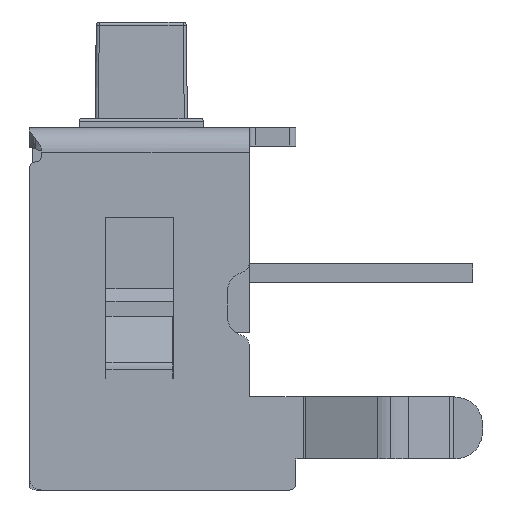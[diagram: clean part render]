
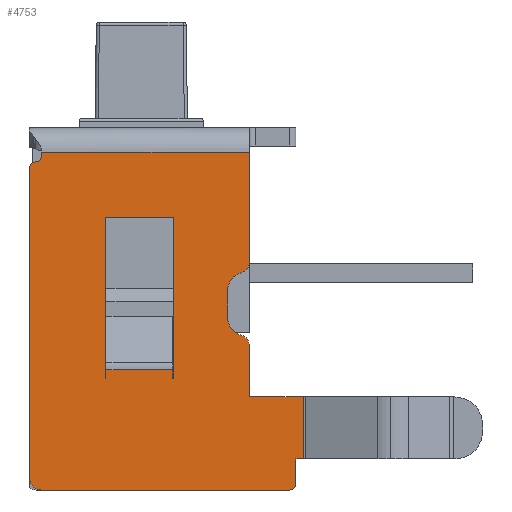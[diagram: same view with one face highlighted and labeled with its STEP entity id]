
A CAD part, left-side view. The second image highlights one B-rep face of the part: STEP entity #4753.
In plain terms, the highlighted planar face has unit normal (-1, 0, 0).
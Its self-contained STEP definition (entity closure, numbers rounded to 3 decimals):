
#252=DIRECTION('',(0.,1.,0.));
#253=VECTOR('',#252,1.08);
#254=CARTESIAN_POINT('',(-3.79,-0.324,
4.266));
#255=LINE('',#254,#253);
#286=DIRECTION('',(0.,0.,1.));
#287=VECTOR('',#286,0.138);
#288=CARTESIAN_POINT('',(-3.79,-0.324,
4.128));
#289=LINE('',#288,#287);
#346=DIRECTION('',(0.,1.,0.));
#347=VECTOR('',#346,0.868);
#348=CARTESIAN_POINT('',(-3.79,-2.427,3.828));
#349=LINE('',#348,#347);
#358=CARTESIAN_POINT('',(-3.79,-2.209,2.428));
#359=DIRECTION('',(1.,0.,0.));
#360=DIRECTION('',(0.,-1.,0.));
#361=AXIS2_PLACEMENT_3D('',#358,#359,#360);
#363=CARTESIAN_POINT('',(-3.79,1.791,2.528));
#364=DIRECTION('',(1.,0.,0.));
#365=DIRECTION('',(0.,0.,-1.));
#366=AXIS2_PLACEMENT_3D('',#363,#364,#365);
#368=CARTESIAN_POINT('',(-3.79,1.891,7.518));
#369=DIRECTION('',(1.,0.,0.));
#370=DIRECTION('',(0.,1.,0.));
#371=AXIS2_PLACEMENT_3D('',#368,#369,#370);
#373=CARTESIAN_POINT('',(-3.79,1.894,7.718));
#374=DIRECTION('',(-1.,0.,0.));
#375=DIRECTION('',(0.,-0.018,-1.));
#376=AXIS2_PLACEMENT_3D('',#373,#374,#375);
#378=DIRECTION('',(0.,0.,1.));
#379=VECTOR('',#378,0.057);
#380=CARTESIAN_POINT('',(-3.79,1.794,7.718));
#381=LINE('',#380,#379);
#382=DIRECTION('',(0.,-1.,0.));
#383=VECTOR('',#382,3.354);
#384=CARTESIAN_POINT('',(-3.79,1.794,7.775));
#385=LINE('',#384,#383);
#386=CARTESIAN_POINT('',(-3.79,-1.383,6.004));
#387=DIRECTION('',(1.,0.,0.));
#388=DIRECTION('',(0.,-1.,0.));
#389=AXIS2_PLACEMENT_3D('',#386,#387,#388);
#391=CARTESIAN_POINT('',(-3.79,-1.509,5.545));
#392=DIRECTION('',(-1.,0.,0.));
#393=DIRECTION('',(0.,0.265,0.964));
#394=AXIS2_PLACEMENT_3D('',#391,#392,#393);
#396=CARTESIAN_POINT('',(-3.79,-1.509,5.111));
#397=DIRECTION('',(-1.,0.,0.));
#398=DIRECTION('',(0.,1.,0.));
#399=AXIS2_PLACEMENT_3D('',#396,#397,#398);
#401=CARTESIAN_POINT('',(-3.79,-1.383,4.652));
#402=DIRECTION('',(1.,0.,0.));
#403=DIRECTION('',(0.,-0.265,0.964));
#404=AXIS2_PLACEMENT_3D('',#401,#402,#403);
#406=DIRECTION('',(0.,0.,1.));
#407=VECTOR('',#406,1.);
#408=CARTESIAN_POINT('',(-3.79,-2.427,2.828));
#409=LINE('',#408,#407);
#674=DIRECTION('',(0.,-1.,0.));
#675=VECTOR('',#674,0.118);
#676=CARTESIAN_POINT('',(-3.79,-2.309,2.828));
#677=LINE('',#676,#675);
#686=DIRECTION('',(0.,0.,1.));
#687=VECTOR('',#686,0.4);
#688=CARTESIAN_POINT('',(-3.79,-2.309,2.428));
#689=LINE('',#688,#687);
#702=DIRECTION('',(0.,-1.,0.));
#703=VECTOR('',#702,4.);
#704=CARTESIAN_POINT('',(-3.79,1.791,2.328));
#705=LINE('',#704,#703);
#718=DIRECTION('',(0.,0.,-1.));
#719=VECTOR('',#718,4.99);
#720=CARTESIAN_POINT('',(-3.79,1.991,7.518));
#721=LINE('',#720,#719);
#2533=DIRECTION('',(0.,0.,1.));
#2534=VECTOR('',#2533,1.771);
#2535=CARTESIAN_POINT('',(-3.79,-1.559,
6.004));
#2536=LINE('',#2535,#2534);
#2553=DIRECTION('',(0.,0.,1.));
#2554=VECTOR('',#2553,0.434);
#2555=CARTESIAN_POINT('',(-3.79,-1.209,
5.111));
#2556=LINE('',#2555,#2554);
#2573=DIRECTION('',(0.,0.,1.));
#2574=VECTOR('',#2573,0.824);
#2575=CARTESIAN_POINT('',(-3.79,-1.559,
3.828));
#2576=LINE('',#2575,#2574);
#3147=DIRECTION('',(0.,1.,0.));
#3148=VECTOR('',#3147,0.01);
#3149=CARTESIAN_POINT('',(-3.79,-0.334,
4.128));
#3150=LINE('',#3149,#3148);
#3159=DIRECTION('',(0.,0.,-1.));
#3160=VECTOR('',#3159,2.6);
#3161=CARTESIAN_POINT('',(-3.79,-0.334,
6.728));
#3162=LINE('',#3161,#3160);
#3171=DIRECTION('',(0.,-1.,0.));
#3172=VECTOR('',#3171,1.1);
#3173=CARTESIAN_POINT('',(-3.79,0.766,
6.728));
#3174=LINE('',#3173,#3172);
#3183=DIRECTION('',(0.,0.,1.));
#3184=VECTOR('',#3183,2.6);
#3185=CARTESIAN_POINT('',(-3.79,0.766,
4.128));
#3186=LINE('',#3185,#3184);
#3195=DIRECTION('',(0.,1.,0.));
#3196=VECTOR('',#3195,0.01);
#3197=CARTESIAN_POINT('',(-3.79,0.756,
4.128));
#3198=LINE('',#3197,#3196);
#3203=DIRECTION('',(0.,0.,-1.));
#3204=VECTOR('',#3203,0.138);
#3205=CARTESIAN_POINT('',(-3.79,0.756,
4.266));
#3206=LINE('',#3205,#3204);
#3516=CARTESIAN_POINT('',(-3.79,1.794,7.775));
#3517=CARTESIAN_POINT('',(-3.79,-1.559,7.775));
#3518=VERTEX_POINT('',#3516);
#3519=VERTEX_POINT('',#3517);
#3532=CARTESIAN_POINT('',(-3.79,-2.309,
2.828));
#3533=CARTESIAN_POINT('',(-3.79,-2.427,
2.828));
#3534=VERTEX_POINT('',#3532);
#3535=VERTEX_POINT('',#3533);
#3536=CARTESIAN_POINT('',(-3.79,-2.309,
2.428));
#3537=VERTEX_POINT('',#3536);
#3538=CARTESIAN_POINT('',(-3.79,-2.209,
2.328));
#3539=VERTEX_POINT('',#3538);
#3540=CARTESIAN_POINT('',(-3.79,1.791,2.328));
#3541=VERTEX_POINT('',#3540);
#3542=CARTESIAN_POINT('',(-3.79,1.991,2.528));
#3543=VERTEX_POINT('',#3542);
#3544=CARTESIAN_POINT('',(-3.79,1.991,7.518));
#3545=VERTEX_POINT('',#3544);
#3546=CARTESIAN_POINT('',(-3.79,1.892,7.618));
#3547=VERTEX_POINT('',#3546);
#3548=CARTESIAN_POINT('',(-3.79,1.794,7.718));
#3549=VERTEX_POINT('',#3548);
#3550=CARTESIAN_POINT('',(-3.79,-1.559,
6.004));
#3551=VERTEX_POINT('',#3550);
#3552=CARTESIAN_POINT('',(-3.79,-1.43,
5.834));
#3553=VERTEX_POINT('',#3552);
#3554=CARTESIAN_POINT('',(-3.79,-1.209,
5.545));
#3555=VERTEX_POINT('',#3554);
#3556=CARTESIAN_POINT('',(-3.79,-1.209,
5.111));
#3557=VERTEX_POINT('',#3556);
#3558=CARTESIAN_POINT('',(-3.79,-1.43,
4.821));
#3559=VERTEX_POINT('',#3558);
#3560=CARTESIAN_POINT('',(-3.79,-1.559,
4.652));
#3561=VERTEX_POINT('',#3560);
#3562=CARTESIAN_POINT('',(-3.79,-1.559,
3.828));
#3563=VERTEX_POINT('',#3562);
#3564=CARTESIAN_POINT('',(-3.79,-2.427,
3.828));
#3565=VERTEX_POINT('',#3564);
#3566=CARTESIAN_POINT('',(-3.79,-0.334,
6.728));
#3567=CARTESIAN_POINT('',(-3.79,-0.334,
4.128));
#3568=VERTEX_POINT('',#3566);
#3569=VERTEX_POINT('',#3567);
#3570=CARTESIAN_POINT('',(-3.79,0.766,
6.728));
#3571=VERTEX_POINT('',#3570);
#3572=CARTESIAN_POINT('',(-3.79,0.766,
4.128));
#3573=VERTEX_POINT('',#3572);
#3696=CARTESIAN_POINT('',(-3.79,0.756,
4.266));
#3697=VERTEX_POINT('',#3696);
#3708=CARTESIAN_POINT('',(-3.79,-0.324,
4.266));
#3709=VERTEX_POINT('',#3708);
#3710=CARTESIAN_POINT('',(-3.79,-0.324,
4.128));
#3711=VERTEX_POINT('',#3710);
#3712=CARTESIAN_POINT('',(-3.79,0.756,
4.128));
#3713=VERTEX_POINT('',#3712);
#4693=CARTESIAN_POINT('',(-3.79,-0.218,
5.051));
#4694=DIRECTION('',(1.,0.,0.));
#4695=DIRECTION('',(0.,0.,1.));
#4696=AXIS2_PLACEMENT_3D('',#4693,#4694,#4695);
#4697=PLANE('',#4696);
#4699=ORIENTED_EDGE('',*,*,#4698,.F.);
#4701=ORIENTED_EDGE('',*,*,#4700,.F.);
#4703=ORIENTED_EDGE('',*,*,#4702,.F.);
#4705=ORIENTED_EDGE('',*,*,#4704,.T.);
#4707=ORIENTED_EDGE('',*,*,#4706,.F.);
#4709=ORIENTED_EDGE('',*,*,#4708,.T.);
#4711=ORIENTED_EDGE('',*,*,#4710,.F.);
#4713=ORIENTED_EDGE('',*,*,#4712,.T.);
#4715=ORIENTED_EDGE('',*,*,#4714,.T.);
#4717=ORIENTED_EDGE('',*,*,#4716,.T.);
#4719=ORIENTED_EDGE('',*,*,#4718,.T.);
#4721=ORIENTED_EDGE('',*,*,#4720,.F.);
#4723=ORIENTED_EDGE('',*,*,#4722,.T.);
#4725=ORIENTED_EDGE('',*,*,#4724,.T.);
#4727=ORIENTED_EDGE('',*,*,#4726,.F.);
#4729=ORIENTED_EDGE('',*,*,#4728,.T.);
#4731=ORIENTED_EDGE('',*,*,#4730,.T.);
#4733=ORIENTED_EDGE('',*,*,#4732,.F.);
#4734=ORIENTED_EDGE('',*,*,#4683,.F.);
#4735=EDGE_LOOP('',(#4699,#4701,#4703,#4705,#4707,#4709,#4711,#4713,#4715,#4717,
#4719,#4721,#4723,#4725,#4727,#4729,#4731,#4733,#4734));
#4736=FACE_OUTER_BOUND('',#4735,.F.);
#4737=ORIENTED_EDGE('',*,*,#4610,.F.);
#4739=ORIENTED_EDGE('',*,*,#4738,.F.);
#4741=ORIENTED_EDGE('',*,*,#4740,.F.);
#4743=ORIENTED_EDGE('',*,*,#4742,.F.);
#4745=ORIENTED_EDGE('',*,*,#4744,.F.);
#4747=ORIENTED_EDGE('',*,*,#4746,.F.);
#4749=ORIENTED_EDGE('',*,*,#4748,.F.);
#4750=ORIENTED_EDGE('',*,*,#4571,.F.);
#4751=EDGE_LOOP('',(#4737,#4739,#4741,#4743,#4745,#4747,#4749,#4750));
#4752=FACE_BOUND('',#4751,.F.);
#362=CIRCLE('',#361,0.1);
#367=CIRCLE('',#366,0.2);
#372=CIRCLE('',#371,0.1);
#377=CIRCLE('',#376,0.1);
#390=CIRCLE('',#389,0.176);
#395=CIRCLE('',#394,0.3);
#400=CIRCLE('',#399,0.3);
#405=CIRCLE('',#404,0.176);
#4571=EDGE_CURVE('',#3709,#3697,#255,.T.);
#4610=EDGE_CURVE('',#3711,#3709,#289,.T.);
#4683=EDGE_CURVE('',#3565,#3563,#349,.T.);
#4698=EDGE_CURVE('',#3535,#3565,#409,.T.);
#4700=EDGE_CURVE('',#3534,#3535,#677,.T.);
#4702=EDGE_CURVE('',#3537,#3534,#689,.T.);
#4704=EDGE_CURVE('',#3537,#3539,#362,.T.);
#4706=EDGE_CURVE('',#3541,#3539,#705,.T.);
#4708=EDGE_CURVE('',#3541,#3543,#367,.T.);
#4710=EDGE_CURVE('',#3545,#3543,#721,.T.);
#4712=EDGE_CURVE('',#3545,#3547,#372,.T.);
#4714=EDGE_CURVE('',#3547,#3549,#377,.T.);
#4716=EDGE_CURVE('',#3549,#3518,#381,.T.);
#4718=EDGE_CURVE('',#3518,#3519,#385,.T.);
#4720=EDGE_CURVE('',#3551,#3519,#2536,.T.);
#4722=EDGE_CURVE('',#3551,#3553,#390,.T.);
#4724=EDGE_CURVE('',#3553,#3555,#395,.T.);
#4726=EDGE_CURVE('',#3557,#3555,#2556,.T.);
#4728=EDGE_CURVE('',#3557,#3559,#400,.T.);
#4730=EDGE_CURVE('',#3559,#3561,#405,.T.);
#4732=EDGE_CURVE('',#3563,#3561,#2576,.T.);
#4738=EDGE_CURVE('',#3569,#3711,#3150,.T.);
#4740=EDGE_CURVE('',#3568,#3569,#3162,.T.);
#4742=EDGE_CURVE('',#3571,#3568,#3174,.T.);
#4744=EDGE_CURVE('',#3573,#3571,#3186,.T.);
#4746=EDGE_CURVE('',#3713,#3573,#3198,.T.);
#4748=EDGE_CURVE('',#3697,#3713,#3206,.T.);
#4753=ADVANCED_FACE('',(#4736,#4752),#4697,.F.);
